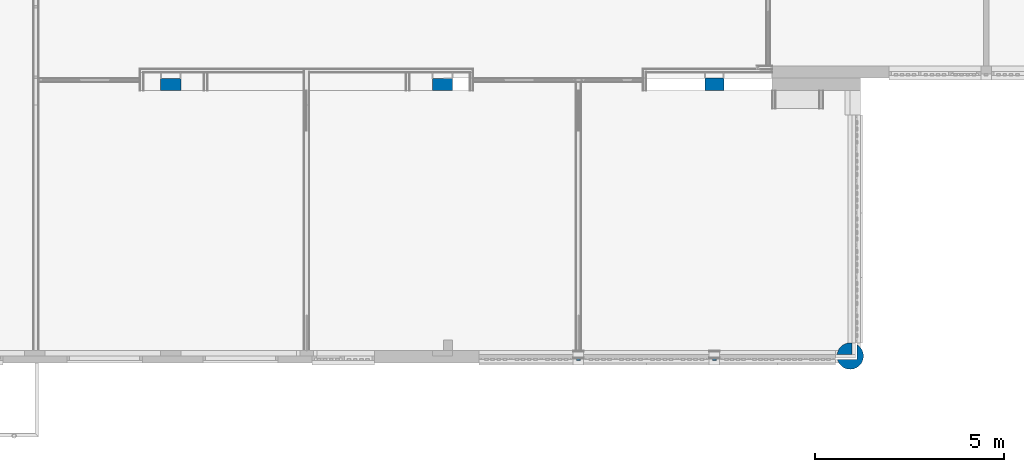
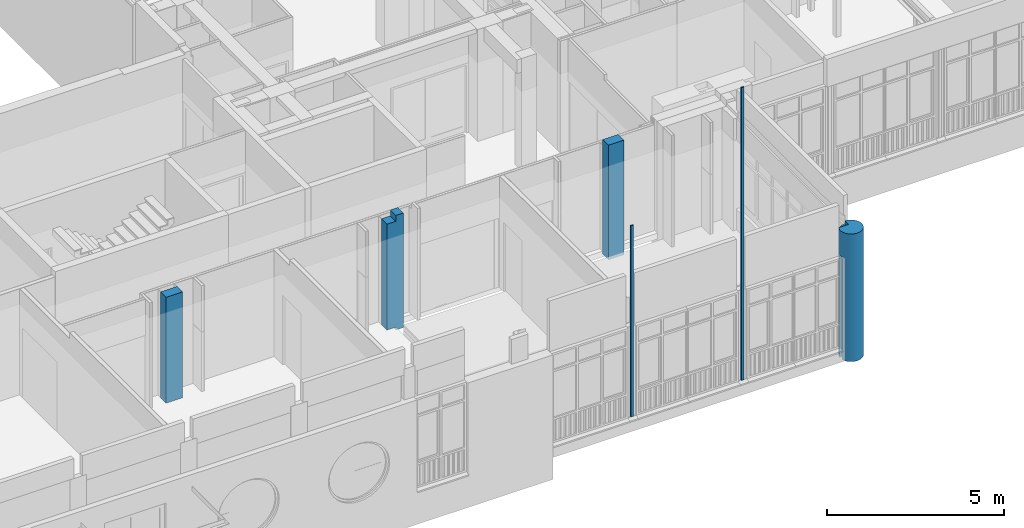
# One storey, part 48 of 135: 6 columns.
"""IFC2X3 building model written with IfcOpenShell, lengths in millimetres."""

from ifc_helpers import new_model, entity, si_unit, converted_unit, derived_unit, money_unit, direction, frame, origin_with_axes, place, context, subcontext, project, spatial, faceted_brep, material, type_object, element, save


model = new_model("IFC2X3")

# Units and contexts
model_context = context("Model", 3, precision=0.01, world=origin_with_axes(), true_north=direction((0.0, 1.0)))
body_context = subcontext(model_context, "Body", "Model", "MODEL_VIEW")
ifc_project = project(units=[si_unit("LENGTHUNIT", "METRE", prefix="MILLI"), si_unit("AREAUNIT", "SQUARE_METRE"), si_unit("VOLUMEUNIT", "CUBIC_METRE"), converted_unit("PLANEANGLEUNIT", "DEGREE", entity("IfcPlaneAngleMeasure", 0.0174532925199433), si_unit("PLANEANGLEUNIT", "RADIAN"), dimensions=[0, 0, 0, 0, 0, 0, 0]), money_unit("EUR"), converted_unit("TIMEUNIT", "Year", entity("IfcTimeMeasure", 31557600.0), si_unit("TIMEUNIT", "SECOND"), dimensions=[0, 0, 1, 0, 0, 0, 0]), si_unit("MASSUNIT", "GRAM", prefix="KILO"), si_unit("THERMODYNAMICTEMPERATUREUNIT", "DEGREE_CELSIUS"), si_unit("LUMINOUSINTENSITYUNIT", "LUMEN"), si_unit("ENERGYUNIT", "JOULE", prefix="MEGA"), derived_unit("THERMALCONDUCTANCEUNIT", [(si_unit("POWERUNIT", "WATT"), 1), (si_unit("LENGTHUNIT", "METRE"), -1), (si_unit("THERMODYNAMICTEMPERATUREUNIT", "KELVIN"), -1)]), derived_unit("SPECIFICHEATCAPACITYUNIT", [(si_unit("ENERGYUNIT", "JOULE"), 1), (si_unit("MASSUNIT", "GRAM", prefix="KILO"), -1), (si_unit("THERMODYNAMICTEMPERATUREUNIT", "KELVIN"), -1)]), derived_unit("MASSDENSITYUNIT", [(si_unit("MASSUNIT", "GRAM", prefix="KILO"), 1), (si_unit("VOLUMEUNIT", "CUBIC_METRE"), -1)])], contexts=[model_context])

# Site, building, storey
site_placement = place(None, origin_with_axes())
site = spatial("IfcSite", under=ifc_project, at=site_placement, Name="Site", CompositionType="ELEMENT")
building_placement = place(site_placement, origin_with_axes())
building = spatial("IfcBuilding", under=site, at=building_placement, Name="Naam gebouw", CompositionType="ELEMENT")
storey_placement = place(building_placement, origin_with_axes())
storey = spatial("IfcBuildingStorey", under=building, at=storey_placement, Name="Begane grond N", CompositionType="ELEMENT", Elevation=0.0)

# Columns
ifc_material_1 = material(Name="ALG - CONSTRUCTIEF KOLOM")
column_type_1 = type_object("IfcColumnType", Name="ALG - CONSTRUCTIEF KOLOM D700", PredefinedType="COLUMN")
column_1_placement = place(storey_placement, frame((32399.99999999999, 3300.223631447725, -450.0000000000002), z_axis=(0.0, 0.0, 1.0), x_axis=(1.0, 0.0, 0.0)))
element("IfcColumn", 1, at=column_1_placement, inside=storey, type_object=column_type_1, material=ifc_material_1, Name="_Kolom-x", ObjectType="COLUMN", context=body_context, shape_type="Brep", body=[
    faceted_brep([(-98.60639489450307, 335.8225407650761, 0.0), (-98.60639489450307, 335.8225407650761, 100.0000000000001), (-54.52973992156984, 345.4108301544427, 100.0000000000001), (-54.52973992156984, 345.4108301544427, 400.0000000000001), (-98.60639489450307, 335.8225407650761, 400.0000000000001), (-98.60639489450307, 335.8225407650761, 4300.000000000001), (-49.81019339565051, 346.4375046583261, 4300.000000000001), (-49.81019339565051, 346.4375046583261, 0.0), (-145.3952545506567, 318.3711983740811, 0.0), (-145.3952545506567, 318.3711983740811, 100.0000000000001), (-54.52973992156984, 145.4450762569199, 100.0000000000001), (-189.2242861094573, 294.4387364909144, 100.0000000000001), (-229.2012568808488, 264.5123510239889, 100.0000000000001), (-264.5123510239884, 229.2012568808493, 100.0000000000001), (-294.4387364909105, 189.2242861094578, 100.0000000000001), (-318.3439936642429, 145.4450762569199, 100.0000000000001), (-54.52973992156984, 145.4450762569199, 400.0000000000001), (-145.3952545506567, 318.3711983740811, 400.0000000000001), (-318.3439936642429, 145.4450762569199, 400.0000000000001), (-294.4387364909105, 189.2242861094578, 400.0000000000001), (-264.5123510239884, 229.2012568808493, 400.0000000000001), (-229.2012568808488, 264.5123510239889, 400.0000000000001), (-189.2242861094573, 294.4387364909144, 400.0000000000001), (-145.3952545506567, 318.3711983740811, 4300.000000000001), (0.0, 145.6887936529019, 4300.000000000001), (0.0, 349.9999999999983, 4300.000000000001), (-189.2242861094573, 294.4387364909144, 4300.000000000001), (-229.2012568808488, 264.5123510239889, 4300.000000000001), (-264.5123510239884, 229.2012568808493, 4300.000000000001), (-294.4387364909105, 189.2242861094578, 4300.000000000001), (-318.2109138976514, 145.6887936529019, 4300.000000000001), (0.0, 349.9999999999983, 0.0), (45.47026007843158, 346.7479028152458, 0.0), (45.47026007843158, 45.44507625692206, 0.0), (-346.749703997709, 45.44507625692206, 0.0), (-346.4375046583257, 49.81019339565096, 0.0), (-335.8225407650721, 98.60639489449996, 0.0), (-318.3711983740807, 145.3952545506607, 0.0), (-294.4387364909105, 189.2242861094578, 0.0), (-264.5123510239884, 229.2012568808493, 0.0), (-229.2012568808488, 264.5123510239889, 0.0), (-189.2242861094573, 294.4387364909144, 0.0), (-318.3711983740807, 145.3952545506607, 4400.000000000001), (-318.2109138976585, 145.6887936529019, 4400.000000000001), (0.0, 145.6887936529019, 4400.000000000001), (0.0, 349.9999999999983, 4400.000000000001), (49.81019339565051, 346.4375046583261, 4400.000000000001), (49.81019339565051, 346.4375046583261, 3540.000000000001), (45.47026007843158, 346.7479028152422, 3540.000000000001), (45.47026007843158, 45.44507625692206, 3540.000000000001), (-346.7497039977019, 45.44507625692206, 3540.000000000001), (-350.0000000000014, 0.0, 3540.000000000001), (-350.0000000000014, 0.0, 4400.000000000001), (-346.4375046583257, 49.81019339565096, 4400.000000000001), (-335.8225407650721, 98.60639489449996, 4400.000000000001), (-346.4375046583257, -49.81019339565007, 4400.000000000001), (-335.8225407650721, -98.60639489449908, 4400.000000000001), (-318.3711983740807, -145.3952545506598, 4400.000000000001), (-294.4387364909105, -189.2242861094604, 4400.000000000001), (-264.5123510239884, -229.2012568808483, 4400.000000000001), (-229.2012568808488, -264.5123510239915, 4400.000000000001), (-189.2242861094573, -294.4387364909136, 4400.000000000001), (-145.3952545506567, -318.3711983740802, 4400.000000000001), (-98.60639489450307, -335.8225407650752, 4400.000000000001), (-49.81019339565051, -346.4375046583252, 4400.000000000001), (0.0, -350.000000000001, 4400.000000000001), (49.81019339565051, -346.4375046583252, 4400.000000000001), (98.60639489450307, -335.8225407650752, 4400.000000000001), (145.3952545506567, -318.3711983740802, 4400.000000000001), (189.2242861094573, -294.4387364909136, 4400.000000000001), (229.2012568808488, -264.5123510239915, 4400.000000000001), (264.5123510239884, -229.2012568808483, 4400.000000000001), (294.4387364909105, -189.2242861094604, 4400.000000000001), (318.3711983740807, -145.3952545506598, 4400.000000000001), (335.8225407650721, -98.60639489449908, 4400.000000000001), (346.4375046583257, -49.81019339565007, 4400.000000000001), (350.0000000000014, 0.0, 4400.000000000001), (346.4375046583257, 49.81019339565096, 4400.000000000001), (335.8225407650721, 98.60639489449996, 4400.000000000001), (318.3711983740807, 145.3952545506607, 4400.000000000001), (294.4387364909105, 189.2242861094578, 4400.000000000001), (264.5123510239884, 229.2012568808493, 4400.000000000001), (229.2012568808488, 264.5123510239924, 4400.000000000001), (189.2242861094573, 294.4387364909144, 4400.000000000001), (145.3952545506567, 318.3711983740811, 4400.000000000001), (98.60639489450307, 335.8225407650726, 4400.000000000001), (98.60639489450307, 335.8225407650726, 3540.000000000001), (175.470260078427, -84.55492374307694, 3540.000000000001), (-338.8792512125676, -84.55492374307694, 3540.000000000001), (-346.4375046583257, -49.81019339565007, 3540.000000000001), (145.3952545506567, 318.3711983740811, 3540.000000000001), (175.470260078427, 301.9490029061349, 3540.000000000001), (175.470260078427, -54.55492374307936, 3540.000000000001), (-338.8792512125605, -84.5549237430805, 0.0), (-335.8225407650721, -98.60639489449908, 0.0), (-318.3711983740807, -145.3952545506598, 0.0), (-294.4387364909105, -189.2242861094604, 0.0), (-264.5123510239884, -229.2012568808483, 0.0), (-229.2012568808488, -264.5123510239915, 0.0), (-189.2242861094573, -294.4387364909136, 0.0), (-145.3952545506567, -318.3711983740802, 0.0), (-98.60639489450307, -335.8225407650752, 0.0), (-49.81019339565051, -346.4375046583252, 0.0), (0.0, -350.000000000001, 0.0), (49.81019339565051, -346.4375046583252, 0.0), (98.60639489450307, -335.8225407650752, 0.0), (145.3952545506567, -318.3711983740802, 0.0), (189.2242861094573, -294.4387364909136, 0.0), (229.2012568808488, -264.5123510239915, 0.0), (264.5123510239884, -229.2012568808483, 0.0), (294.4387364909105, -189.2242861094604, 0.0), (318.3711983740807, -145.3952545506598, 0.0), (335.8225407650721, -98.60639489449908, 0.0), (346.4375046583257, -49.81019339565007, 0.0), (350.0000000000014, 0.0, 0.0), (346.4375046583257, 49.81019339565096, 0.0), (335.8225407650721, 98.60639489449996, 0.0), (318.3711983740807, 145.3952545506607, 0.0), (294.4387364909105, 189.2242861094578, 0.0), (264.5123510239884, 229.2012568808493, 0.0), (229.2012568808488, 264.5123510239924, 0.0), (189.2242861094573, 294.4387364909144, 0.0), (175.470260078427, 301.9490029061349, 0.0), (175.470260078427, -84.5549237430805, 0.0), (175.470260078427, -54.55492374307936, 0.0)], [[[0, 1, 2, 3, 4, 5, 6, 7]], [[8, 9, 1, 0]], [[10, 2, 1, 9, 11, 12, 13, 14, 15]], [[16, 3, 2, 10]], [[17, 4, 3, 16, 18, 19, 20, 21, 22]], [[5, 4, 17, 23]], [[24, 25, 6, 5, 23, 26, 27, 28, 29, 30]], [[7, 6, 25, 31]], [[31, 32, 33, 34, 35, 36, 37, 38, 39, 40, 41, 8, 0, 7]], [[41, 11, 9, 8]], [[40, 12, 11, 41]], [[39, 13, 12, 40]], [[38, 14, 13, 39]], [[18, 15, 14, 38, 37, 42, 43, 30, 29, 19]], [[16, 10, 15, 18]], [[28, 20, 19, 29]], [[27, 21, 20, 28]], [[26, 22, 21, 27]], [[23, 17, 22, 26]], [[24, 44, 45, 25]], [[30, 43, 44, 24]], [[31, 25, 45, 46, 47, 48, 32]], [[32, 48, 49, 33]], [[50, 34, 33, 49]], [[35, 34, 50, 51, 52, 53]], [[35, 53, 54, 36]], [[36, 54, 42, 37]], [[45, 44, 43, 42, 54, 53, 52, 55, 56, 57, 58, 59, 60, 61, 62, 63, 64, 65, 66, 67, 68, 69, 70, 71, 72, 73, 74, 75, 76, 77, 78, 79, 80, 81, 82, 83, 84, 85, 46]], [[46, 85, 86, 47]], [[87, 88, 89, 51, 50, 49, 48, 47, 86, 90, 91, 92]], [[55, 52, 51, 89]], [[55, 89, 88, 93, 94, 56]], [[95, 57, 56, 94]], [[96, 58, 57, 95]], [[97, 59, 58, 96]], [[98, 60, 59, 97]], [[99, 61, 60, 98]], [[100, 62, 61, 99]], [[101, 63, 62, 100]], [[102, 64, 63, 101]], [[103, 65, 64, 102]], [[104, 66, 65, 103]], [[105, 67, 66, 104]], [[106, 68, 67, 105]], [[107, 69, 68, 106]], [[108, 70, 69, 107]], [[109, 71, 70, 108]], [[110, 72, 71, 109]], [[111, 73, 72, 110]], [[112, 74, 73, 111]], [[113, 75, 74, 112]], [[114, 76, 75, 113]], [[115, 77, 76, 114]], [[116, 78, 77, 115]], [[117, 79, 78, 116]], [[118, 80, 79, 117]], [[119, 81, 80, 118]], [[120, 82, 81, 119]], [[121, 83, 82, 120]], [[121, 122, 91, 90, 84, 83]], [[85, 84, 90, 86]], [[88, 87, 123, 93]], [[91, 122, 124, 92]], [[123, 87, 92, 124]], [[94, 93, 123, 124, 122, 121, 120, 119, 118, 117, 116, 115, 114, 113, 112, 111, 110, 109, 108, 107, 106, 105, 104, 103, 102, 101, 100, 99, 98, 97, 96, 95]]]),
])
column_type_2 = type_object("IfcColumnType", Name="ALG - CONSTRUCTIEF KOLOM 540 x 310", PredefinedType="COLUMN")
column_2_placement = place(storey_placement, frame((14400.0, 10495.91242510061, -100.0), z_axis=(0.0, 0.0, 1.0), x_axis=(1.0, 0.0, 0.0)))
element("IfcColumn", 2, at=column_2_placement, inside=storey, type_object=column_type_2, material=ifc_material_1, Name="_Kolom-x", ObjectType="COLUMN", context=body_context, shape_type="Brep", body=[
    faceted_brep([(269.9999999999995, -155.0000000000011, 3750.0), (269.9999999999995, -155.0000000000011, 100.0), (269.9999999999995, 155.0000000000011, 100.0), (269.9999999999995, 155.0000000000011, 3750.0), (-269.9999999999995, -155.0000000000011, 3750.0), (-269.9999999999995, -155.0000000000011, 100.0), (-269.9999999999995, 155.0000000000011, 100.0), (-269.9999999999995, 155.0000000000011, 3750.0)], [[[0, 1, 2, 3]], [[4, 5, 1, 0]], [[5, 6, 2, 1]], [[3, 2, 6, 7]], [[4, 0, 3, 7]], [[7, 6, 5, 4]]]),
])
column_3_placement = place(storey_placement, frame((21600.0, 10495.91242510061, -100.0), z_axis=(0.0, 0.0, 1.0), x_axis=(1.0, 0.0, 0.0)))
element("IfcColumn", 3, at=column_3_placement, inside=storey, type_object=column_type_2, material=ifc_material_1, Name="_Kolom-x", ObjectType="COLUMN", context=body_context, shape_type="Brep", body=[
    faceted_brep([(19.99999999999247, 155.0000000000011, 0.0), (19.99999999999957, 155.0000000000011, 100.0), (-269.9999999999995, 155.0000000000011, 100.0), (-269.9999999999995, 155.0000000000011, 3750.0), (19.99999999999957, 155.0000000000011, 3750.0), (19.99999999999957, 155.0000000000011, 3950.0), (269.9999999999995, 155.0000000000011, 3950.0), (269.9999999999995, 155.0000000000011, 0.0), (19.99999999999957, -155.0000000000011, 100.0), (19.99999999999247, -155.0000000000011, 0.0), (-269.9999999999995, -155.0000000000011, 100.0), (-269.9999999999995, -155.0000000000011, 3750.0), (19.99999999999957, -155.0000000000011, 3750.0), (19.99999999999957, -155.0000000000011, 3950.0), (269.9999999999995, -155.0000000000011, 3950.0), (269.9999999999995, -155.0000000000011, 0.0)], [[[0, 1, 2, 3, 4, 5, 6, 7]], [[8, 1, 0, 9]], [[10, 2, 1, 8]], [[3, 2, 10, 11]], [[12, 4, 3, 11]], [[12, 13, 5, 4]], [[13, 14, 6, 5]], [[7, 6, 14, 15]], [[15, 9, 0, 7]], [[10, 8, 9, 15, 14, 13, 12, 11]]]),
])
column_type_3 = type_object("IfcColumnType", Name="ALG - CONSTRUCTIEF KOLOM 330 x 500", PredefinedType="COLUMN")
column_4_placement = place(storey_placement, frame((28800.0, 10495.91242123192, -99.99999999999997), z_axis=(0.0, 0.0, 1.0), x_axis=(0.0, -1.0, 0.0)))
element("IfcColumn", 4, at=column_4_placement, inside=storey, type_object=column_type_3, material=ifc_material_1, Name="_Kolom-x", ObjectType="COLUMN", context=body_context, shape_type="Brep", body=[
    faceted_brep([(164.9999961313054, 250.0, 0.0), (-162.4227625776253, 250.0, 0.0), (-162.4227625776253, 250.0, 99.99999999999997), (-164.9999961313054, 250.0, 99.99999999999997), (-164.9999961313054, 250.0, 3950.0), (164.9999961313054, 250.0, 3950.0), (164.9999961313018, -250.0, 0.0), (-162.5961968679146, -250.0, 0.0), (-162.596196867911, -250.0, 99.99999999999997), (-164.9999961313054, -250.0, 99.99999999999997), (-164.9999961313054, -250.0, 3950.0), (164.9999961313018, -250.0, 3950.0)], [[[0, 1, 2, 3, 4, 5]], [[6, 7, 1, 0]], [[8, 2, 1, 7]], [[8, 9, 3, 2]], [[4, 3, 9, 10]], [[11, 5, 4, 10]], [[0, 5, 11, 6]], [[9, 8, 7, 6, 11, 10]]]),
])
ifc_material_2 = material(Name="Metaal - Staal C")
column_type_4 = type_object("IfcColumnType", Name="Metaal - Staal C 90 x 44", PredefinedType="COLUMN")
column_5_placement = place(storey_placement, frame((25199.9496505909, 3207.668707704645, 0.0), z_axis=(0.0, 0.0, 1.0), x_axis=(1.0, 0.0, 0.0)))
element("IfcColumn", 5, at=column_5_placement, inside=storey, type_object=column_type_4, material=ifc_material_2, Name="_Kolom-x", ObjectType="COLUMN", context=body_context, shape_type="Brep", body=[
    faceted_brep([(-45.00000000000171, -21.9999999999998, 6590.0), (-45.00000000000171, -21.9999999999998, 0.0), (45.00000000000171, -21.9999999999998, 0.0), (45.00000000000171, -21.9999999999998, 6590.0), (-45.00000000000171, 21.9999999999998, 6590.0), (-45.00000000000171, 21.9999999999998, 0.0), (45.00000000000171, 21.9999999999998, 0.0), (45.00000000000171, 21.9999999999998, 6590.0)], [[[0, 1, 2, 3]], [[4, 5, 1, 0]], [[2, 1, 5, 6]], [[3, 2, 6, 7]], [[4, 0, 3, 7]], [[7, 6, 5, 4]]]),
])
column_6_placement = place(storey_placement, frame((28800.03780894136, 3207.668707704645, 0.0), z_axis=(0.0, 0.0, 1.0), x_axis=(1.0, 0.0, 0.0)))
element("IfcColumn", 6, at=column_6_placement, inside=storey, type_object=column_type_4, material=ifc_material_2, Name="_Kolom-x", ObjectType="COLUMN", context=body_context, shape_type="Brep", body=[
    faceted_brep([(-45.00000000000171, -21.9999999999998, 10090.0), (-45.00000000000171, -21.9999999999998, 0.0), (45.00000000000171, -21.9999999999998, 0.0), (45.00000000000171, -21.9999999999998, 10090.0), (-45.00000000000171, 21.9999999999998, 10090.0), (-45.00000000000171, 21.9999999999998, 0.0), (45.00000000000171, 21.9999999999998, 0.0), (45.00000000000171, 21.9999999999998, 10090.0)], [[[0, 1, 2, 3]], [[4, 5, 1, 0]], [[2, 1, 5, 6]], [[3, 2, 6, 7]], [[4, 0, 3, 7]], [[7, 6, 5, 4]]]),
])

save(model, "model.ifc")
